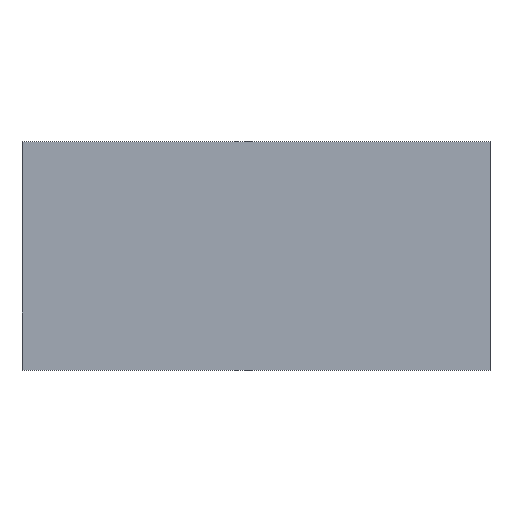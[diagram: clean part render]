
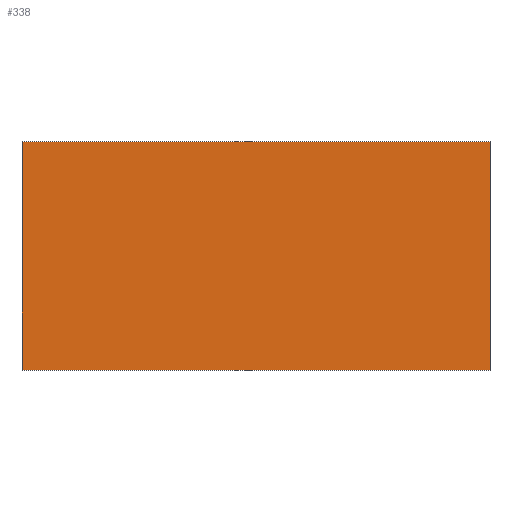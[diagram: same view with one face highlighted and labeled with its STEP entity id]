
A CAD part, top view. The second image highlights one B-rep face of the part: STEP entity #338.
In plain terms, the highlighted planar face has unit normal (0, 0, 1).
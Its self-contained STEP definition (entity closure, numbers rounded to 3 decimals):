
#24 = VERTEX_POINT('',#25);
#25 = CARTESIAN_POINT('',(0.,0.,92.075));
#32 = PLANE('',#33);
#33 = AXIS2_PLACEMENT_3D('',#34,#35,#36);
#34 = CARTESIAN_POINT('',(0.,0.,0.));
#35 = DIRECTION('',(1.,0.,0.));
#36 = DIRECTION('',(0.,0.,1.));
#44 = PLANE('',#45);
#45 = AXIS2_PLACEMENT_3D('',#46,#47,#48);
#46 = CARTESIAN_POINT('',(0.,0.,0.));
#47 = DIRECTION('',(0.,1.,0.));
#48 = DIRECTION('',(0.,0.,1.));
#85 = VERTEX_POINT('',#86);
#86 = CARTESIAN_POINT('',(0.,193.675,92.075));
#100 = PLANE('',#101);
#101 = AXIS2_PLACEMENT_3D('',#102,#103,#104);
#102 = CARTESIAN_POINT('',(0.,193.675,0.));
#103 = DIRECTION('',(0.,1.,0.));
#104 = DIRECTION('',(0.,0.,1.));
#112 = EDGE_CURVE('',#24,#85,#113,.T.);
#113 = SURFACE_CURVE('',#114,(#118,#125),.PCURVE_S1.);
#114 = LINE('',#115,#116);
#115 = CARTESIAN_POINT('',(0.,0.,92.075));
#116 = VECTOR('',#117,1.);
#117 = DIRECTION('',(0.,1.,0.));
#118 = PCURVE('',#32,#119);
#119 = DEFINITIONAL_REPRESENTATION('',(#120),#124);
#120 = LINE('',#121,#122);
#121 = CARTESIAN_POINT('',(92.075,0.));
#122 = VECTOR('',#123,1.);
#123 = DIRECTION('',(0.,-1.));
#124 = ( GEOMETRIC_REPRESENTATION_CONTEXT(2) 
PARAMETRIC_REPRESENTATION_CONTEXT() REPRESENTATION_CONTEXT('2D SPACE',''
  ) );
#125 = PCURVE('',#126,#131);
#126 = PLANE('',#127);
#127 = AXIS2_PLACEMENT_3D('',#128,#129,#130);
#128 = CARTESIAN_POINT('',(0.,0.,92.075));
#129 = DIRECTION('',(0.,0.,1.));
#130 = DIRECTION('',(1.,0.,0.));
#131 = DEFINITIONAL_REPRESENTATION('',(#132),#136);
#132 = LINE('',#133,#134);
#133 = CARTESIAN_POINT('',(0.,0.));
#134 = VECTOR('',#135,1.);
#135 = DIRECTION('',(0.,1.));
#136 = ( GEOMETRIC_REPRESENTATION_CONTEXT(2) 
PARAMETRIC_REPRESENTATION_CONTEXT() REPRESENTATION_CONTEXT('2D SPACE',''
  ) );
#144 = VERTEX_POINT('',#145);
#145 = CARTESIAN_POINT('',(396.875,0.,92.075));
#152 = PLANE('',#153);
#153 = AXIS2_PLACEMENT_3D('',#154,#155,#156);
#154 = CARTESIAN_POINT('',(396.875,0.,0.));
#155 = DIRECTION('',(1.,0.,0.));
#156 = DIRECTION('',(0.,0.,1.));
#195 = VERTEX_POINT('',#196);
#196 = CARTESIAN_POINT('',(396.875,193.675,92.075));
#217 = EDGE_CURVE('',#144,#195,#218,.T.);
#218 = SURFACE_CURVE('',#219,(#223,#230),.PCURVE_S1.);
#219 = LINE('',#220,#221);
#220 = CARTESIAN_POINT('',(396.875,0.,92.075));
#221 = VECTOR('',#222,1.);
#222 = DIRECTION('',(0.,1.,0.));
#223 = PCURVE('',#152,#224);
#224 = DEFINITIONAL_REPRESENTATION('',(#225),#229);
#225 = LINE('',#226,#227);
#226 = CARTESIAN_POINT('',(92.075,0.));
#227 = VECTOR('',#228,1.);
#228 = DIRECTION('',(0.,-1.));
#229 = ( GEOMETRIC_REPRESENTATION_CONTEXT(2) 
PARAMETRIC_REPRESENTATION_CONTEXT() REPRESENTATION_CONTEXT('2D SPACE',''
  ) );
#230 = PCURVE('',#126,#231);
#231 = DEFINITIONAL_REPRESENTATION('',(#232),#236);
#232 = LINE('',#233,#234);
#233 = CARTESIAN_POINT('',(396.875,0.));
#234 = VECTOR('',#235,1.);
#235 = DIRECTION('',(0.,1.));
#236 = ( GEOMETRIC_REPRESENTATION_CONTEXT(2) 
PARAMETRIC_REPRESENTATION_CONTEXT() REPRESENTATION_CONTEXT('2D SPACE',''
  ) );
#263 = EDGE_CURVE('',#24,#144,#264,.T.);
#264 = SURFACE_CURVE('',#265,(#269,#276),.PCURVE_S1.);
#265 = LINE('',#266,#267);
#266 = CARTESIAN_POINT('',(0.,0.,92.075));
#267 = VECTOR('',#268,1.);
#268 = DIRECTION('',(1.,0.,0.));
#269 = PCURVE('',#44,#270);
#270 = DEFINITIONAL_REPRESENTATION('',(#271),#275);
#271 = LINE('',#272,#273);
#272 = CARTESIAN_POINT('',(92.075,0.));
#273 = VECTOR('',#274,1.);
#274 = DIRECTION('',(0.,1.));
#275 = ( GEOMETRIC_REPRESENTATION_CONTEXT(2) 
PARAMETRIC_REPRESENTATION_CONTEXT() REPRESENTATION_CONTEXT('2D SPACE',''
  ) );
#276 = PCURVE('',#126,#277);
#277 = DEFINITIONAL_REPRESENTATION('',(#278),#282);
#278 = LINE('',#279,#280);
#279 = CARTESIAN_POINT('',(0.,0.));
#280 = VECTOR('',#281,1.);
#281 = DIRECTION('',(1.,0.));
#282 = ( GEOMETRIC_REPRESENTATION_CONTEXT(2) 
PARAMETRIC_REPRESENTATION_CONTEXT() REPRESENTATION_CONTEXT('2D SPACE',''
  ) );
#310 = EDGE_CURVE('',#85,#195,#311,.T.);
#311 = SURFACE_CURVE('',#312,(#316,#323),.PCURVE_S1.);
#312 = LINE('',#313,#314);
#313 = CARTESIAN_POINT('',(0.,193.675,92.075));
#314 = VECTOR('',#315,1.);
#315 = DIRECTION('',(1.,0.,0.));
#316 = PCURVE('',#100,#317);
#317 = DEFINITIONAL_REPRESENTATION('',(#318),#322);
#318 = LINE('',#319,#320);
#319 = CARTESIAN_POINT('',(92.075,0.));
#320 = VECTOR('',#321,1.);
#321 = DIRECTION('',(0.,1.));
#322 = ( GEOMETRIC_REPRESENTATION_CONTEXT(2) 
PARAMETRIC_REPRESENTATION_CONTEXT() REPRESENTATION_CONTEXT('2D SPACE',''
  ) );
#323 = PCURVE('',#126,#324);
#324 = DEFINITIONAL_REPRESENTATION('',(#325),#329);
#325 = LINE('',#326,#327);
#326 = CARTESIAN_POINT('',(0.,193.675));
#327 = VECTOR('',#328,1.);
#328 = DIRECTION('',(1.,0.));
#329 = ( GEOMETRIC_REPRESENTATION_CONTEXT(2) 
PARAMETRIC_REPRESENTATION_CONTEXT() REPRESENTATION_CONTEXT('2D SPACE',''
  ) );
#338 = ADVANCED_FACE('',(#339),#126,.T.);
#339 = FACE_BOUND('',#340,.T.);
#340 = EDGE_LOOP('',(#341,#342,#343,#344));
#341 = ORIENTED_EDGE('',*,*,#112,.F.);
#342 = ORIENTED_EDGE('',*,*,#263,.T.);
#343 = ORIENTED_EDGE('',*,*,#217,.T.);
#344 = ORIENTED_EDGE('',*,*,#310,.F.);
